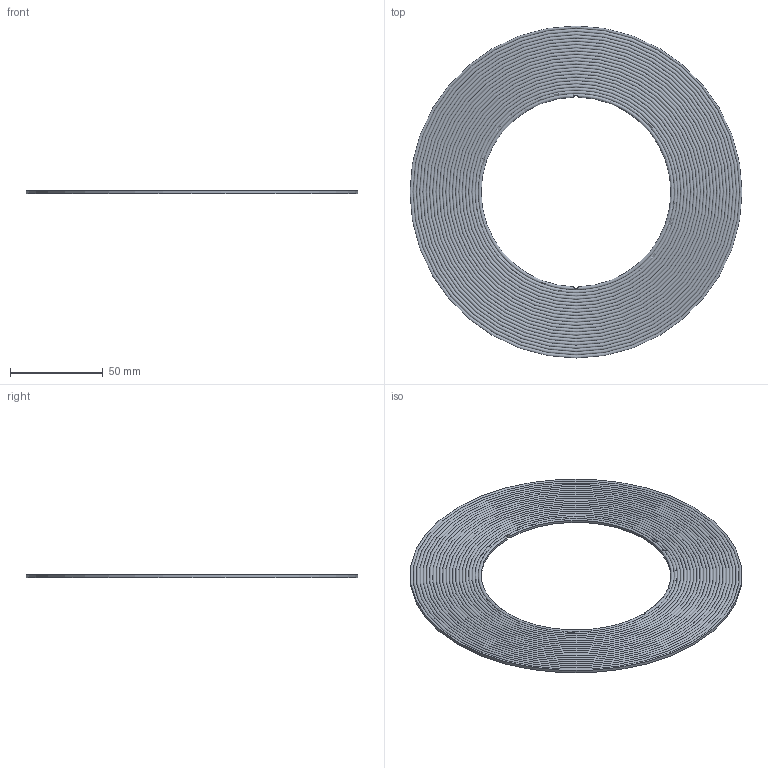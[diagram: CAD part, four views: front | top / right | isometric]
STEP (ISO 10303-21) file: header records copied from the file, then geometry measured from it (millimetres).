
FILE_DESCRIPTION(/* description */ ('Alibre Inc.'),/* implementation_level */ '2;1');
FILE_NAME(/* name */ 'export-EE4205AD-4D87-4B4B-B252-3CF4EE232AB3',/* time_stamp */ '2026-02-03T10:39:44+00:00',/* author */ (''),/* organization */ (''),/* preprocessor_version */ 'ST-DEVELOPER v17',/* originating_system */ 'Alibre',/* authorisation */ '');
FILE_SCHEMA (('CONFIG_CONTROL_DESIGN'));
Length unit declared in the file: millimetre
Bounding box: 178.75 x 178.75 x 1.75 mm (x, y, z)
Volume: 26370 mm3; surface area: 44422.4 mm2
Topology: 1 solids, 1 shells, 49 faces, 81 edges, 53 vertices
Faces by surface type: torus 22, plane 22, cylinder 5
Full cylindrical faces by diameter (mm): 178.75 x1
Entity records: 1046 total; most frequent: CARTESIAN_POINT 194, DIRECTION 136, ORIENTED_EDGE 112, EDGE_LOOP 94, FACE_BOUND 94, AXIS2_PLACEMENT_3D 78, EDGE_CURVE 56, VERTEX_POINT 52
